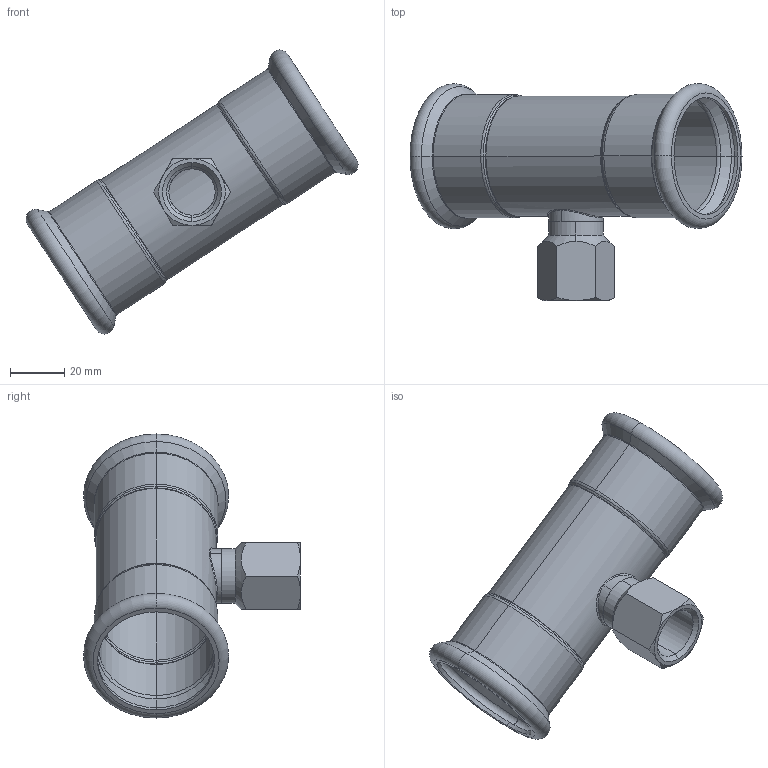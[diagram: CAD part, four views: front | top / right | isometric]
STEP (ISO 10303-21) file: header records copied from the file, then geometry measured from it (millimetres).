
FILE_DESCRIPTION (( 'STEP AP203' ), '1' );
FILE_NAME ('GDA5251.STEP', '2019-01-14T01:12:55', ( '' ), ( '' ), 'SwSTEP 2.0', 'SolidWorks 2015', '' );
FILE_SCHEMA (( 'CONFIG_CONTROL_DESIGN' ));
Length unit declared in the file: millimetre
Products named in the file (3): ITC-I-03-18℅?; T(R)-¢ñ-42¡Á18''; GDA5251
Assembly tree (2 placements, depth 2):
  GDA5251
    ITC-I-03-18℅?
    T(R)-¢ñ-42¡Á18''
Bounding box: 121.88 x 79.64 x 104.28 mm (x, y, z)
Volume: 31572.6 mm3; surface area: 38596.3 mm2
Topology: 2 solids, 2 shells, 103 faces, 218 edges, 122 vertices
Faces by surface type: torus 32, cone 28, cylinder 26, plane 13, bspline 4
Entity records: 4106 total; most frequent: CARTESIAN_POINT 1573, DIRECTION 526, ORIENTED_EDGE 436, AXIS2_PLACEMENT_3D 236, EDGE_CURVE 218, CIRCLE 132, VERTEX_POINT 122, EDGE_LOOP 112
